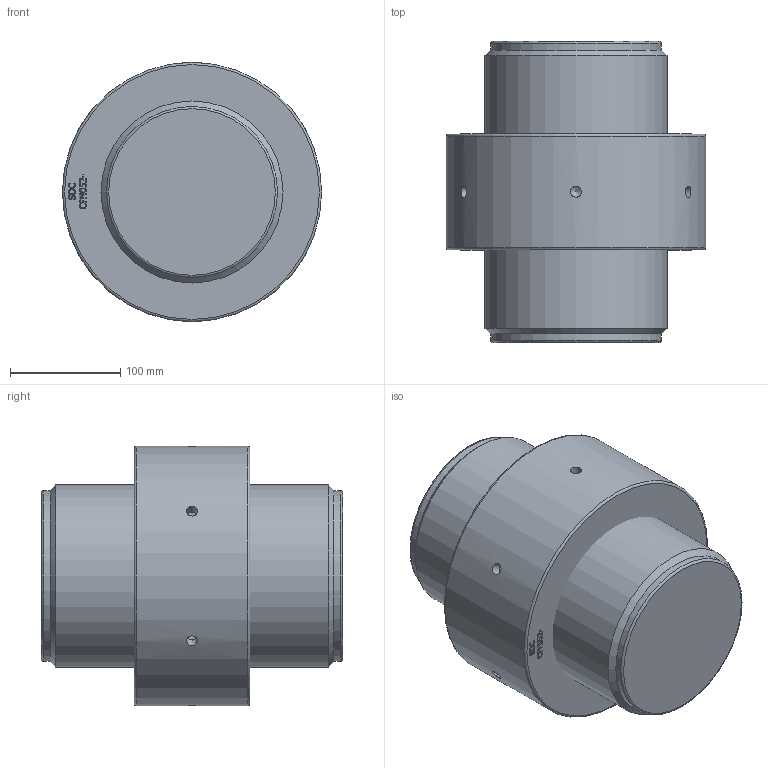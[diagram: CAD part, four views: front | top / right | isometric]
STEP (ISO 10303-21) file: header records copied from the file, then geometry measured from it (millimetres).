
FILE_DESCRIPTION(/* description */ (''),/* implementation_level */ '2;1');
FILE_NAME(/* name */ 'F:\Clienti LS\Redaelli\CYT\CYT\ARRNGEMENT\CYT052 61 061 0.stp',/* time_stamp */ '2021-05-09T08:46:27+02:00',/* author */ ('ranca'),/* organization */ (''),/* preprocessor_version */ 'ST-DEVELOPER v16.13',/* originating_system */ 'Autodesk Inventor 2018',/* authorisation */ '');
FILE_SCHEMA (('AUTOMOTIVE_DESIGN { 1 0 10303 214 3 1 1 }'));
Length unit declared in the file: millimetre
Products named in the file (3): CYT012-61-061-0; CYT012-61-061-0_1; CYT012-61-061-0_DADO
Assembly tree (2 placements, depth 2):
  CYT012-61-061-0
    CYT012-61-061-0_1
    CYT012-61-061-0_DADO
Bounding box: 235 x 273 x 235 mm (x, y, z)
Volume: 8259571.5 mm3; surface area: 357626 mm2
Topology: 2 solids, 2 shells, 346 faces, 953 edges, 635 vertices
Faces by surface type: bspline 196, plane 127, cylinder 11, cone 8, torus 4
Full cylindrical faces by diameter (mm): 10 x6, 155 x2, 158.505 x1, 165 x1, 235 x1
Entity records: 12026 total; most frequent: CARTESIAN_POINT 4648, ORIENTED_EDGE 1834, EDGE_CURVE 917, DIRECTION 843, VERTEX_POINT 622, LINE 493, VECTOR 493, B_SPLINE_CURVE_WITH_KNOTS 404
